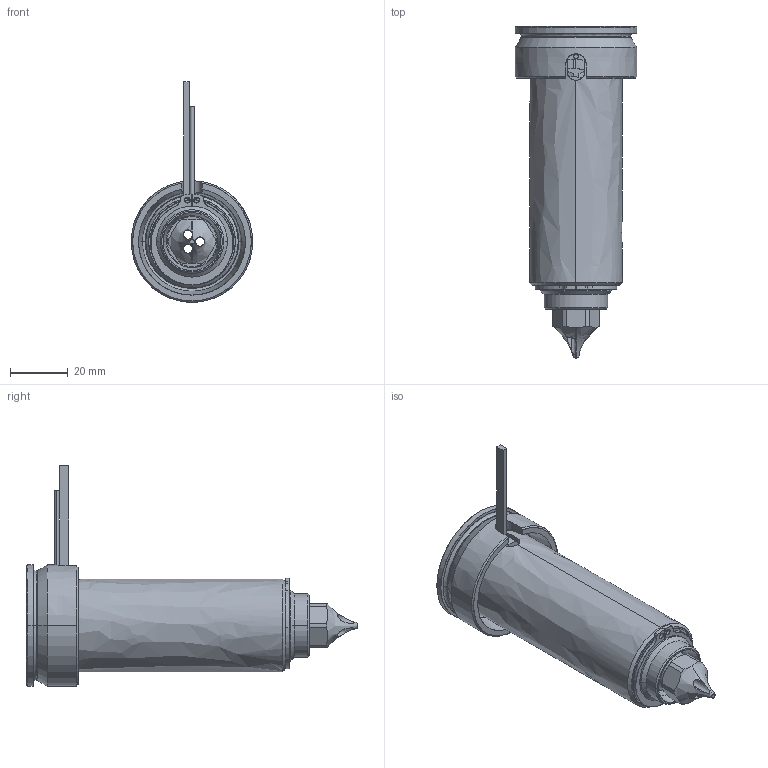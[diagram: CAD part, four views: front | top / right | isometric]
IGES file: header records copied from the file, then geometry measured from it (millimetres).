
Start section: SolidWorks IGES file using analytic representation for surfaces
Global section: file name: C:\Users\luca.EMPAD\Desktop\TEM\UGDL3613-M-A-1 [Øf=1.7 ØC=10].IGS; native system: SolidWorks 2012; preprocessor: SolidWorks 2012; author: luca; date: 120330.160609; units: millimetre
Bounding box: 42 x 114.8 x 76.3 mm (x, y, z)
Surface area: 37013.1 mm2 (no closed solid volume)
Topology: 0 solids, 0 shells, 127 faces, 2266 edges, 2266 vertices
Faces by surface type: revolution 79, bspline 48
